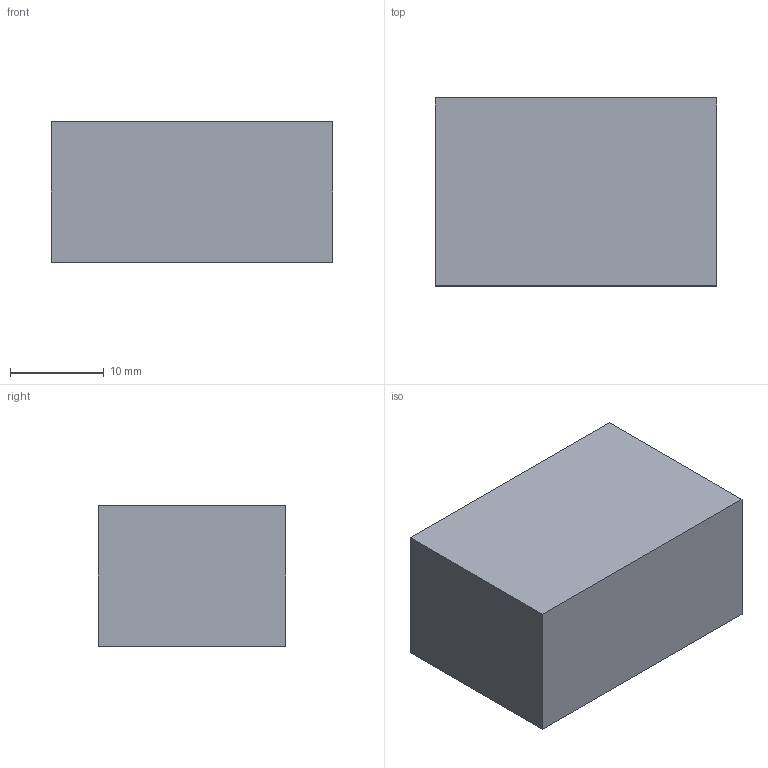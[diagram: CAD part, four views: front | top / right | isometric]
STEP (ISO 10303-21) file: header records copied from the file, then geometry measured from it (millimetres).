
FILE_DESCRIPTION(('Open CASCADE Model'),'2;1');
FILE_NAME('Open CASCADE Shape Model','2026-11-23T20:25:51',('Author'),( 'Open CASCADE'),'Open CASCADE STEP processor 7.9','Open CASCADE 7.9' ,'Unknown');
FILE_SCHEMA(('AUTOMOTIVE_DESIGN { 1 0 10303 214 1 1 1 1 }'));
Length unit declared in the file: millimetre
Products named in the file (1): Open CASCADE STEP translator 7.9 18
Bounding box: 30 x 20 x 15 mm (x, y, z)
Volume: 9000 mm3; surface area: 2700 mm2
Topology: 1 solids, 1 shells, 6 faces, 12 edges, 8 vertices
Faces by surface type: plane 6
Entity records: 322 total; most frequent: CARTESIAN_POINT 51, DIRECTION 50, LINE 36, VECTOR 36, ORIENTED_EDGE 24, PCURVE 24, DEFINITIONAL_REPRESENTATION 24, EDGE_CURVE 12
